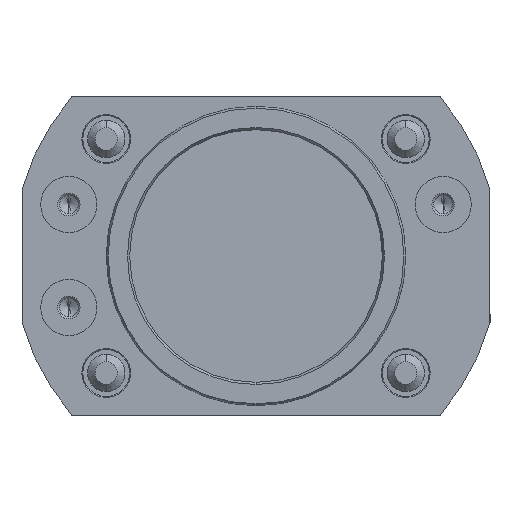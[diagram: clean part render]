
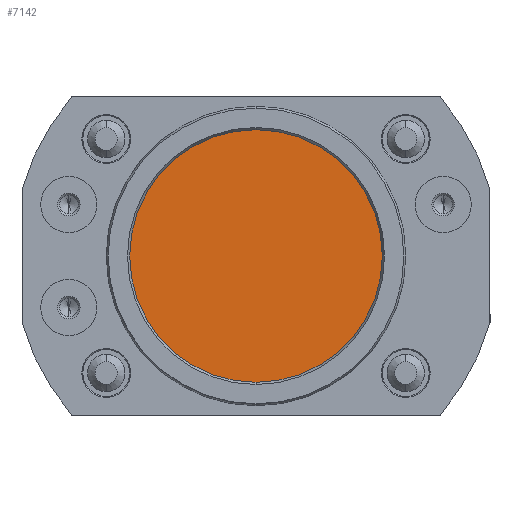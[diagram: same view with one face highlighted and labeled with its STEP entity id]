
A CAD part, front view. The second image highlights one B-rep face of the part: STEP entity #7142.
In plain terms, the highlighted planar face has unit normal (0, -1, 0).
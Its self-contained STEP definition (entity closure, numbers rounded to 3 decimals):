
#899 = CARTESIAN_POINT ( 'NONE',  ( 0., 3.1, -13.5 ) ) ;
#1158 = CARTESIAN_POINT ( 'NONE',  ( 0., 3.1, 0. ) ) ;
#1162 = AXIS2_PLACEMENT_3D ( 'NONE', #1158, #1214, #1213 ) ;
#1166 = CIRCLE ( 'NONE', #1162, 13.5 ) ;
#1213 = DIRECTION ( 'NONE',  ( 0., 0., 1. ) ) ;
#1214 = DIRECTION ( 'NONE',  ( 0., 1., 0. ) ) ;
#1217 = CARTESIAN_POINT ( 'NONE',  ( 0., 3.1, 13.5 ) ) ;
#1248 = AXIS2_PLACEMENT_3D ( 'NONE', #1311, #1310, #1309 ) ;
#1249 = DIRECTION ( 'NONE',  ( 0., -1., 0. ) ) ;
#1255 = CIRCLE ( 'NONE', #1248, 13.5 ) ;
#1287 = DIRECTION ( 'NONE',  ( 0., 0., -1. ) ) ;
#1293 = CARTESIAN_POINT ( 'NONE',  ( 0., 3.1, 0. ) ) ;
#1294 = PLANE ( 'NONE',  #1298 ) ;
#1298 = AXIS2_PLACEMENT_3D ( 'NONE', #1293, #1249, #1287 ) ;
#1309 = DIRECTION ( 'NONE',  ( 0., 0., 1. ) ) ;
#1310 = DIRECTION ( 'NONE',  ( 0., 1., 0. ) ) ;
#1311 = CARTESIAN_POINT ( 'NONE',  ( 0., 3.1, 0. ) ) ;
#1313 = FACE_OUTER_BOUND ( 'NONE', #7136, .T. ) ;
#6887 = ORIENTED_EDGE ( 'NONE', *, *, #7120, .F. ) ;
#6901 = VERTEX_POINT ( 'NONE', #899 ) ;
#7068 = EDGE_CURVE ( 'NONE', #6901, #7069, #1166, .T. ) ;
#7069 = VERTEX_POINT ( 'NONE', #1217 ) ;
#7120 = EDGE_CURVE ( 'NONE', #7069, #6901, #1255, .T. ) ;
#7123 = ORIENTED_EDGE ( 'NONE', *, *, #7068, .F. ) ;
#7136 = EDGE_LOOP ( 'NONE', ( #6887, #7123 ) ) ;
#7142 = ADVANCED_FACE ( 'NONE', ( #1313 ), #1294, .T. ) ;
